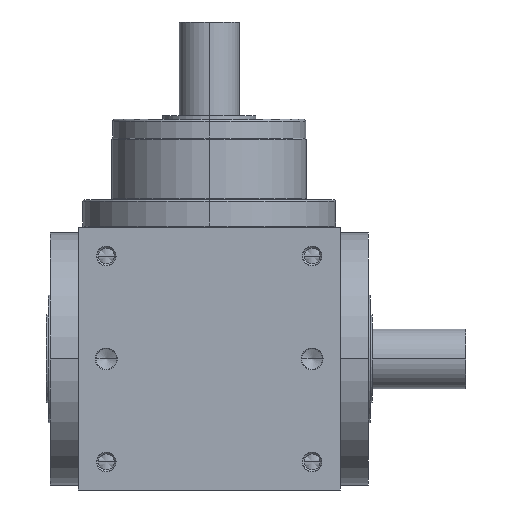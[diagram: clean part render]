
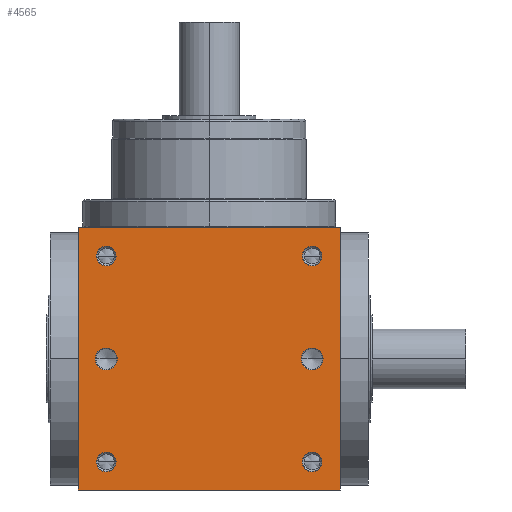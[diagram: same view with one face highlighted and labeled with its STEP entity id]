
A CAD part, front view. The second image highlights one B-rep face of the part: STEP entity #4565.
In plain terms, the highlighted planar face has unit normal (0, -1, 0).
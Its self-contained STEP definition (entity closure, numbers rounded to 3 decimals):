
#5=DIRECTION('',(1.,0.,0.));
#6=VECTOR('',#5,140.);
#7=CARTESIAN_POINT('',(-70.,-70.,-70.));
#8=LINE('',#7,#6);
#155=DIRECTION('',(0.,0.,1.));
#156=VECTOR('',#155,140.);
#157=CARTESIAN_POINT('',(70.,-70.,-70.));
#158=LINE('',#157,#156);
#209=DIRECTION('',(0.,0.,1.));
#210=VECTOR('',#209,140.);
#211=CARTESIAN_POINT('',(-70.,-70.,-70.));
#212=LINE('',#211,#210);
#213=CARTESIAN_POINT('',(55.,-70.,55.));
#214=DIRECTION('',(0.,1.,0.));
#215=DIRECTION('',(-1.,0.,0.));
#216=AXIS2_PLACEMENT_3D('',#213,#214,#215);
#218=CARTESIAN_POINT('',(55.,-70.,55.));
#219=DIRECTION('',(0.,1.,0.));
#220=DIRECTION('',(1.,0.,0.));
#221=AXIS2_PLACEMENT_3D('',#218,#219,#220);
#223=CARTESIAN_POINT('',(-55.,-70.,55.));
#224=DIRECTION('',(0.,1.,0.));
#225=DIRECTION('',(-1.,0.,0.));
#226=AXIS2_PLACEMENT_3D('',#223,#224,#225);
#228=CARTESIAN_POINT('',(-55.,-70.,55.));
#229=DIRECTION('',(0.,1.,0.));
#230=DIRECTION('',(1.,0.,0.));
#231=AXIS2_PLACEMENT_3D('',#228,#229,#230);
#233=CARTESIAN_POINT('',(55.,-70.,-55.));
#234=DIRECTION('',(0.,1.,0.));
#235=DIRECTION('',(-1.,0.,0.));
#236=AXIS2_PLACEMENT_3D('',#233,#234,#235);
#238=CARTESIAN_POINT('',(55.,-70.,-55.));
#239=DIRECTION('',(0.,1.,0.));
#240=DIRECTION('',(1.,0.,0.));
#241=AXIS2_PLACEMENT_3D('',#238,#239,#240);
#243=CARTESIAN_POINT('',(-55.,-70.,-55.));
#244=DIRECTION('',(0.,1.,0.));
#245=DIRECTION('',(-1.,0.,0.));
#246=AXIS2_PLACEMENT_3D('',#243,#244,#245);
#248=CARTESIAN_POINT('',(-55.,-70.,-55.));
#249=DIRECTION('',(0.,1.,0.));
#250=DIRECTION('',(1.,0.,0.));
#251=AXIS2_PLACEMENT_3D('',#248,#249,#250);
#253=CARTESIAN_POINT('',(-55.,-70.,0.));
#254=DIRECTION('',(0.,1.,0.));
#255=DIRECTION('',(1.,0.,0.));
#256=AXIS2_PLACEMENT_3D('',#253,#254,#255);
#258=CARTESIAN_POINT('',(-55.,-70.,0.));
#259=DIRECTION('',(0.,1.,0.));
#260=DIRECTION('',(-1.,0.,0.));
#261=AXIS2_PLACEMENT_3D('',#258,#259,#260);
#263=CARTESIAN_POINT('',(55.,-70.,0.));
#264=DIRECTION('',(0.,1.,0.));
#265=DIRECTION('',(1.,0.,0.));
#266=AXIS2_PLACEMENT_3D('',#263,#264,#265);
#268=CARTESIAN_POINT('',(55.,-70.,0.));
#269=DIRECTION('',(0.,1.,0.));
#270=DIRECTION('',(-1.,0.,0.));
#271=AXIS2_PLACEMENT_3D('',#268,#269,#270);
#285=DIRECTION('',(1.,0.,0.));
#286=VECTOR('',#285,140.);
#287=CARTESIAN_POINT('',(-70.,-70.,70.));
#288=LINE('',#287,#286);
#3646=CARTESIAN_POINT('',(-70.,-70.,-70.));
#3648=VERTEX_POINT('',#3646);
#3649=CARTESIAN_POINT('',(70.,-70.,-70.));
#3650=VERTEX_POINT('',#3649);
#3654=CARTESIAN_POINT('',(-70.,-70.,70.));
#3656=VERTEX_POINT('',#3654);
#3657=CARTESIAN_POINT('',(70.,-70.,70.));
#3658=VERTEX_POINT('',#3657);
#3829=CARTESIAN_POINT('',(49.75,-70.,55.));
#3830=CARTESIAN_POINT('',(60.25,-70.,55.));
#3831=VERTEX_POINT('',#3829);
#3832=VERTEX_POINT('',#3830);
#3837=CARTESIAN_POINT('',(-60.25,-70.,55.));
#3838=CARTESIAN_POINT('',(-49.75,-70.,55.));
#3839=VERTEX_POINT('',#3837);
#3840=VERTEX_POINT('',#3838);
#3845=CARTESIAN_POINT('',(49.75,-70.,-55.));
#3846=CARTESIAN_POINT('',(60.25,-70.,-55.));
#3847=VERTEX_POINT('',#3845);
#3848=VERTEX_POINT('',#3846);
#3853=CARTESIAN_POINT('',(-60.25,-70.,-55.));
#3854=CARTESIAN_POINT('',(-49.75,-70.,-55.));
#3855=VERTEX_POINT('',#3853);
#3856=VERTEX_POINT('',#3854);
#4195=CARTESIAN_POINT('',(-49.15,-70.,
0.));
#4196=CARTESIAN_POINT('',(-60.85,-70.,0.));
#4197=VERTEX_POINT('',#4195);
#4198=VERTEX_POINT('',#4196);
#4203=CARTESIAN_POINT('',(60.85,-70.,0.));
#4204=CARTESIAN_POINT('',(49.15,-70.,0.));
#4205=VERTEX_POINT('',#4203);
#4206=VERTEX_POINT('',#4204);
#4517=CARTESIAN_POINT('',(-70.,-70.,-70.));
#4518=DIRECTION('',(0.,-1.,0.));
#4519=DIRECTION('',(1.,0.,0.));
#4520=AXIS2_PLACEMENT_3D('',#4517,#4518,#4519);
#4521=PLANE('',#4520);
#4522=ORIENTED_EDGE('',*,*,#4357,.F.);
#4523=ORIENTED_EDGE('',*,*,#4400,.T.);
#4525=ORIENTED_EDGE('',*,*,#4524,.T.);
#4526=ORIENTED_EDGE('',*,*,#4479,.F.);
#4527=EDGE_LOOP('',(#4522,#4523,#4525,#4526));
#4528=FACE_OUTER_BOUND('',#4527,.F.);
#4530=ORIENTED_EDGE('',*,*,#4529,.F.);
#4532=ORIENTED_EDGE('',*,*,#4531,.F.);
#4533=EDGE_LOOP('',(#4530,#4532));
#4534=FACE_BOUND('',#4533,.F.);
#4536=ORIENTED_EDGE('',*,*,#4535,.F.);
#4538=ORIENTED_EDGE('',*,*,#4537,.F.);
#4539=EDGE_LOOP('',(#4536,#4538));
#4540=FACE_BOUND('',#4539,.F.);
#4542=ORIENTED_EDGE('',*,*,#4541,.F.);
#4544=ORIENTED_EDGE('',*,*,#4543,.F.);
#4545=EDGE_LOOP('',(#4542,#4544));
#4546=FACE_BOUND('',#4545,.F.);
#4548=ORIENTED_EDGE('',*,*,#4547,.F.);
#4550=ORIENTED_EDGE('',*,*,#4549,.F.);
#4551=EDGE_LOOP('',(#4548,#4550));
#4552=FACE_BOUND('',#4551,.F.);
#4554=ORIENTED_EDGE('',*,*,#4553,.F.);
#4556=ORIENTED_EDGE('',*,*,#4555,.F.);
#4557=EDGE_LOOP('',(#4554,#4556));
#4558=FACE_BOUND('',#4557,.F.);
#4560=ORIENTED_EDGE('',*,*,#4559,.F.);
#4562=ORIENTED_EDGE('',*,*,#4561,.F.);
#4563=EDGE_LOOP('',(#4560,#4562));
#4564=FACE_BOUND('',#4563,.F.);
#4565=ADVANCED_FACE('',(#4528,#4534,#4540,#4546,#4552,#4558,#4564),#4521,.T.);
#217=CIRCLE('',#216,5.25);
#222=CIRCLE('',#221,5.25);
#227=CIRCLE('',#226,5.25);
#232=CIRCLE('',#231,5.25);
#237=CIRCLE('',#236,5.25);
#242=CIRCLE('',#241,5.25);
#247=CIRCLE('',#246,5.25);
#252=CIRCLE('',#251,5.25);
#257=CIRCLE('',#256,5.85);
#262=CIRCLE('',#261,5.85);
#267=CIRCLE('',#266,5.85);
#272=CIRCLE('',#271,5.85);
#4357=EDGE_CURVE('',#3648,#3650,#8,.T.);
#4400=EDGE_CURVE('',#3648,#3656,#212,.T.);
#4479=EDGE_CURVE('',#3650,#3658,#158,.T.);
#4524=EDGE_CURVE('',#3656,#3658,#288,.T.);
#4529=EDGE_CURVE('',#3831,#3832,#217,.T.);
#4531=EDGE_CURVE('',#3832,#3831,#222,.T.);
#4535=EDGE_CURVE('',#3839,#3840,#227,.T.);
#4537=EDGE_CURVE('',#3840,#3839,#232,.T.);
#4541=EDGE_CURVE('',#3847,#3848,#237,.T.);
#4543=EDGE_CURVE('',#3848,#3847,#242,.T.);
#4547=EDGE_CURVE('',#3855,#3856,#247,.T.);
#4549=EDGE_CURVE('',#3856,#3855,#252,.T.);
#4553=EDGE_CURVE('',#4197,#4198,#257,.T.);
#4555=EDGE_CURVE('',#4198,#4197,#262,.T.);
#4559=EDGE_CURVE('',#4205,#4206,#267,.T.);
#4561=EDGE_CURVE('',#4206,#4205,#272,.T.);
